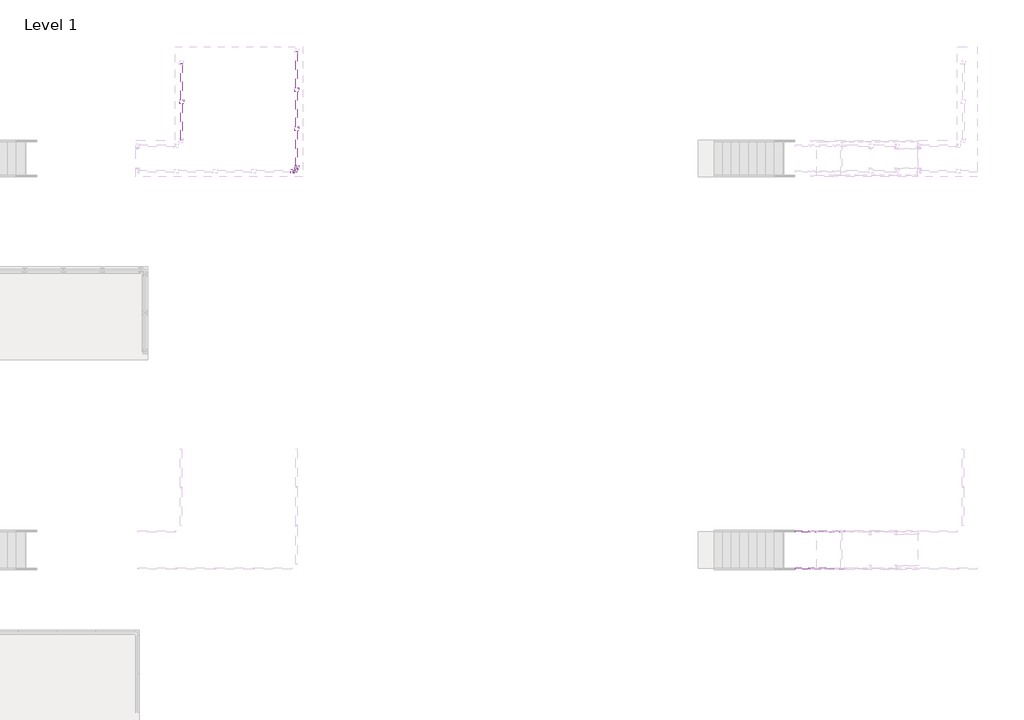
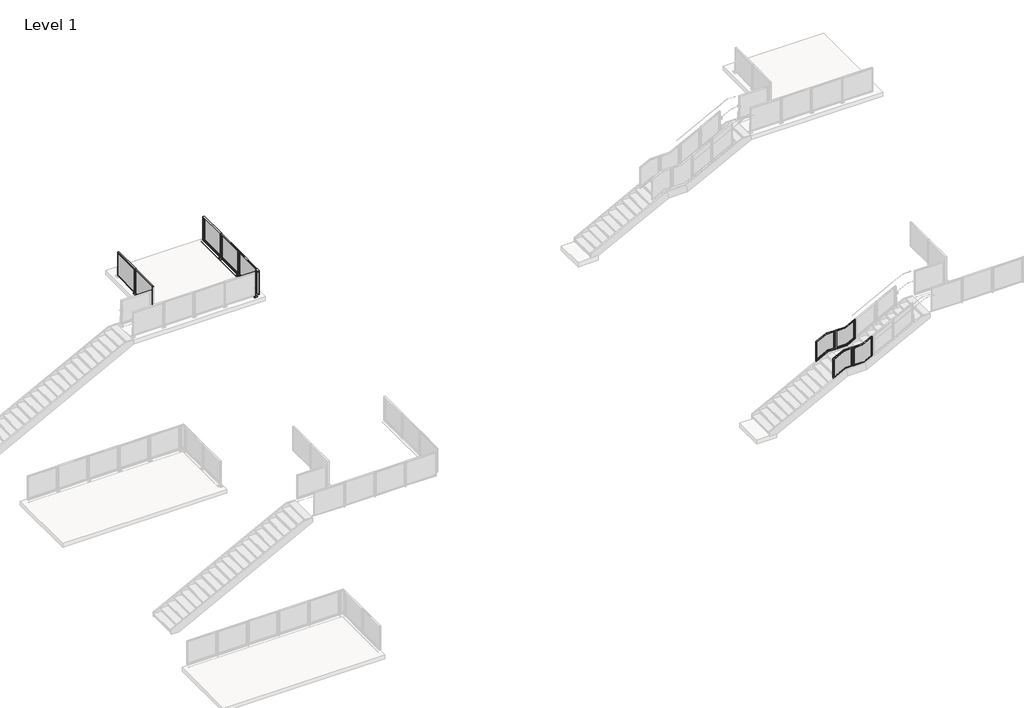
# One storey, part 9 of 37: 7 railings, 2 proxies.
"""IFC4 building model written with IfcOpenShell, lengths in millimetres."""

from ifc_helpers import new_model, si_unit, point, frame, frame_2d, origin, place, context, project, spatial, polyline, circle_curve, trimmed, segment, composite_curve, outline, extrude, faceted_brep, transform, mapped, element, save
from ifc_brep_helpers import plane_surface, cylinder_surface, advanced_brep
from components import baluster_end_post_viva_frame_top_mount_efd1a991, baluster_end_post_viva_frame_top_mount_259ace8d, baluster_corner_panel_viva_frame_inside_standard_3efb34d5, baluster_landing_panel_viva_frame_lower_standard_pp01_bb39d073, baluster_landing_panel_viva_frame_lower_standard_pp01_9d421a16, baluster_landing_panel_viva_frame_upper_standard_pp01_6e22e4d4, baluster_landing_panel_viva_frame_upper_standard_pp01_60e66afc

model = new_model("IFC4")

# Units and contexts
model_context = context("Model", 3, world=origin())
ifc_project = project(units=[si_unit("LENGTHUNIT", "METRE", prefix="MILLI")], contexts=[model_context])

# Site, building, storey
site = spatial("IfcSite", under=ifc_project)
building = spatial("IfcBuilding", under=site)
storey = spatial("IfcBuildingStorey", under=building, Name="Level 1", Elevation=0.0)

# Proxies
placement = place(None, origin())
baluster_end_post_viva_frame_top_mount_shape = baluster_end_post_viva_frame_top_mount_efd1a991(model_context)
element("IfcBuildingElementProxy", 1, Name="Baluster-End-Post-VIVA-FRAME-Top Mount : ANCHORED TO CONCRETE_TOP MOUNT FOLD_STRAIGHT", ObjectType="Baluster-End-Post-VIVA-FRAME-Top Mount : ANCHORED TO CONCRETE_TOP MOUNT FOLD_STRAIGHT", at=placement, inside=storey, context=model_context, shape_type="MappedRepresentation", body=[
    mapped(baluster_end_post_viva_frame_top_mount_shape, transform((-27936.8813244, -18323.6294547, 3047.492), x_axis=(1.0, 0.0, 0.0), y_axis=(0.0, 1.0, 0.0), z_axis=(0.0, 0.0, 1.0))),
])
baluster_end_post_viva_frame_top_mount_2_shape = baluster_end_post_viva_frame_top_mount_259ace8d(model_context)
element("IfcBuildingElementProxy", 2, Name="Baluster-End-Post-VIVA-FRAME-Top Mount : ANCHORED TO CONCRETE_TOP MOUNT FOLD_STRAIGHT", ObjectType="Baluster-End-Post-VIVA-FRAME-Top Mount : ANCHORED TO CONCRETE_TOP MOUNT FOLD_STRAIGHT", at=placement, inside=storey, context=model_context, shape_type="MappedRepresentation", body=[
    mapped(baluster_end_post_viva_frame_top_mount_2_shape, transform((-27904.0759339, -18290.5208207, 3047.492), x_axis=(0.0, 1.0, 0.0), y_axis=(-1.0, 0.0, 0.0), z_axis=(0.0, 0.0, 1.0))),
])

# Railings
baluster_corner_panel_viva_frame_inside_standard_shape = baluster_corner_panel_viva_frame_inside_standard_3efb34d5(model_context)
element("IfcRailing", 3, ObjectType="Baluster-Corner-Panel-VIVA-FRAME : Inside_Standard", at=placement, inside=storey, context=model_context, shape_type="MappedRepresentation", body=[
    mapped(baluster_corner_panel_viva_frame_inside_standard_shape, transform((-27784.2655339, -18444.3140278, 3022.346), x_axis=(0.0, 1.0, 0.0), y_axis=(-1.0, 0.0, 0.0), z_axis=(0.0, 0.0, 1.0))),
])
baluster_landing_panel_viva_frame_lower_standard_pp01_shape = baluster_landing_panel_viva_frame_lower_standard_pp01_bb39d073(model_context)
element("IfcRailing", 4, ObjectType="Baluster-Landing-Panel-VIVA-FRAME-Lower : Standard_PP01", at=placement, inside=storey, context=model_context, shape_type="MappedRepresentation", body=[
    mapped(baluster_landing_panel_viva_frame_lower_standard_pp01_shape, transform((-11484.6935302, -31470.0224284, 1733.4542898), x_axis=(0.0, 1.0, 0.0), y_axis=(-1.0, 0.0, 0.0), z_axis=(0.0, 0.0, 1.0))),
])
baluster_landing_panel_viva_frame_lower_standard_pp01_2_shape = baluster_landing_panel_viva_frame_lower_standard_pp01_9d421a16(model_context)
element("IfcRailing", 5, ObjectType="Baluster-Landing-Panel-VIVA-FRAME-Lower : Standard_PP01", at=placement, inside=storey, context=model_context, shape_type="MappedRepresentation", body=[
    mapped(baluster_landing_panel_viva_frame_lower_standard_pp01_2_shape, transform((-11484.6935302, -30170.4643608, 1733.4542898), x_axis=(0.0, -1.0, 0.0), y_axis=(1.0, 0.0, 0.0), z_axis=(0.0, 0.0, 1.0))),
])
baluster_landing_panel_viva_frame_upper_standard_pp01_shape = baluster_landing_panel_viva_frame_upper_standard_pp01_6e22e4d4(model_context)
element("IfcRailing", 6, ObjectType="Baluster-Landing-Panel-VIVA-FRAME-Upper : Standard_PP01", at=placement, inside=storey, context=model_context, shape_type="MappedRepresentation", body=[
    mapped(baluster_landing_panel_viva_frame_upper_standard_pp01_shape, transform((-10828.1937185, -31517.6393503, 1736.2385299), x_axis=(0.0, 1.0, 0.0), y_axis=(-1.0, 0.0, 0.0), z_axis=(0.0, 0.0, 1.0))),
])
baluster_landing_panel_viva_frame_upper_standard_pp01_2_shape = baluster_landing_panel_viva_frame_upper_standard_pp01_60e66afc(model_context)
element("IfcRailing", 7, ObjectType="Baluster-Landing-Panel-VIVA-FRAME-Upper : Standard_PP01", at=placement, inside=storey, context=model_context, shape_type="MappedRepresentation", body=[
    mapped(baluster_landing_panel_viva_frame_upper_standard_pp01_2_shape, transform((-10828.1937185, -30122.8474388, 1736.2385299), x_axis=(0.0, -1.0, 0.0), y_axis=(1.0, 0.0, 0.0), z_axis=(0.0, 0.0, 1.0))),
])
element("IfcRailing", 8, ObjectType="Metal-Panel-VIVA-FRAME-Slab-Top-Anchor-Straight", at=placement, inside=storey, context=model_context, shape_type="SolidModel", body=[
    extrude(outline(composite_curve([segment(trimmed(circle_curve(frame_2d((3047.746, -31481.1959244)), 0.254), [point((3047.746, -31480.9419244))], [point((3047.746, -31481.4499244))], False, "CARTESIAN"), True, "CONTINUOUS"), segment(trimmed(circle_curve(frame_2d((3047.746, -31481.1959244)), 0.254), [point((3047.746, -31481.4499244))], [point((3047.746, -31480.9419244))], False, "CARTESIAN"), True, "CONTINUOUS")], self_intersect=False)), frame((0.0, -17412.2829234, 0.0), z_axis=(0.0, 1.0, 0.0), x_axis=(0.0, 0.0, 1.0)), (0.0, 0.0, 1.0), 2540.0),
    extrude(outline(composite_curve([segment(trimmed(circle_curve(frame_2d((3047.746, -31481.1959244)), 0.254), [point((3047.746, -31480.9419244))], [point((3047.746, -31481.4499244))], False, "CARTESIAN"), True, "CONTINUOUS"), segment(trimmed(circle_curve(frame_2d((3047.746, -31481.1959244)), 0.254), [point((3047.746, -31481.4499244))], [point((3047.746, -31480.9419244))], False, "CARTESIAN"), True, "CONTINUOUS")], self_intersect=False)), frame((0.0, -17412.2829234, 0.0), z_axis=(0.0, 1.0, 0.0), x_axis=(0.0, 0.0, 1.0)), (0.0, 0.0, 1.0), 2540.0),
    extrude(outline(polyline([(-31604.0063244, -16101.4564664), (-31604.0063244, -14913.1093803), (-31601.0063244, -14913.1093803), (-31601.0063244, -16101.4564664), (-31604.0063244, -16101.4564664)])), frame((0.0, 0.0, 3124.1959569), z_axis=(0.0, 0.0, 1.0), x_axis=(1.0, 0.0, 0.0)), (0.0, 0.0, 1.0), 990.5826861),
    faceted_brep([(-31604.0063244, -16126.8564664, 4140.1786431), (-31604.0063244, -14887.7093803, 4140.1786431), (-31604.0063244, -14887.7093803, 3098.7959569), (-31604.0063244, -16126.8564664, 3098.7959569), (-31604.0063244, -16101.4564664, 4114.7786431), (-31604.0063244, -16101.4564664, 3124.1959569), (-31604.0063244, -14913.1093803, 3124.1959569), (-31604.0063244, -14913.1093803, 4114.7786431), (-31601.0063244, -16101.4564664, 3124.1959569), (-31601.0063244, -14913.1093803, 3124.1959569), (-31601.0063244, -14913.1093803, 4114.7786431), (-31601.0063244, -16101.4564664, 4114.7786431), (-31550.2063244, -16120.8620664, 3104.7903569), (-31550.2063244, -14893.7037803, 3104.7903569), (-31581.0165244, -14893.7037803, 3104.7903569), (-31581.0165244, -16120.8620664, 3104.7903569), (-31550.2063244, -14893.7037803, 4134.1842431), (-31581.0165244, -14893.7037803, 4134.1842431), (-31581.0165244, -16120.8620664, 4134.1842431), (-31550.2063244, -16120.8620664, 4134.1842431), (-31550.2063244, -14887.7093803, 3098.7959569), (-31550.2063244, -14887.7093803, 4140.1786431), (-31550.2063244, -16126.8564664, 4140.1786431), (-31550.2063244, -16126.8564664, 3098.7959569), (-31601.0063244, -16076.0564664, 4089.3786431), (-31601.0063244, -16076.0564664, 3149.5959569), (-31601.0063244, -14938.5093803, 3149.5959569), (-31601.0063244, -14938.5093803, 4089.3786431), (-31581.0165244, -14938.5093803, 3149.5959569), (-31581.0165244, -16076.0564664, 3149.5959569), (-31581.0165244, -16076.0564664, 4089.3786431), (-31581.0165244, -14938.5093803, 4089.3786431)], [[[0, 1, 2, 3], [4, 5, 6, 7]], [[5, 8, 9, 6]], [[6, 9, 10, 7]], [[7, 10, 11, 4]], [[4, 11, 8, 5]], [[12, 13, 14, 15]], [[13, 16, 17, 14]], [[15, 18, 19, 12]], [[20, 21, 22, 23], [12, 19, 16, 13]], [[23, 22, 0, 3]], [[23, 3, 2, 20]], [[2, 1, 21, 20]], [[22, 21, 1, 0]], [[11, 10, 9, 8], [24, 25, 26, 27]], [[14, 17, 18, 15], [28, 29, 30, 31]], [[18, 17, 16, 19]], [[27, 31, 30, 24]], [[26, 28, 31, 27]], [[25, 29, 28, 26]], [[24, 30, 29, 25]]]),
    advanced_brep(
    [(-31577.1063244, -16168.4703234, 3178.1496), (-31577.1063244, -16168.4703234, 3187.7), (-31577.1063244, -16168.4703234, 3197.2504), (-31577.1063244, -16163.6951234, 3178.1496), (-31577.1063244, -16163.6951234, 3197.2504), (-31577.1063244, -16163.6951234, 3182.9248), (-31577.1063244, -16163.6951234, 3192.4752), (-31577.1063244, -16120.8707234, 3182.9248), (-31577.1063244, -16120.8707234, 3192.4752), (-31577.1063244, -16120.8707234, 3178.1496), (-31577.1063244, -16120.8707234, 3197.2504), (-31577.1063244, -16116.0955234, 3178.1496), (-31577.1063244, -16116.0955234, 3197.2504), (-31577.1063244, -16116.0955234, 3187.7)],
    [
        (0, 1),
        (1, 2),
        (2, 0, circle_curve(frame((-31577.1063244, -16168.4703234, 3187.7), z_axis=(0.0, -1.0, 0.0), x_axis=(0.0, 0.0, 1.0)), 9.5504)),
        (0, 2, circle_curve(frame((-31577.1063244, -16168.4703234, 3187.7), z_axis=(0.0, -1.0, 0.0), x_axis=(0.0, 0.0, 1.0)), 9.5504)),
        (3, 0),
        (2, 4),
        (4, 3, circle_curve(frame((-31577.1063244, -16163.6951234, 3187.7), z_axis=(0.0, -1.0, 0.0), x_axis=(0.0, 0.0, 1.0)), 9.5504)),
        (3, 4, circle_curve(frame((-31577.1063244, -16163.6951234, 3187.7), z_axis=(0.0, -1.0, 0.0), x_axis=(0.0, 0.0, 1.0)), 9.5504)),
        (5, 3),
        (4, 6),
        (6, 5, circle_curve(frame((-31577.1063244, -16163.6951234, 3187.7), z_axis=(0.0, -1.0, 0.0), x_axis=(0.0, 0.0, 1.0)), 4.7752)),
        (5, 6, circle_curve(frame((-31577.1063244, -16163.6951234, 3187.7), z_axis=(0.0, -1.0, 0.0), x_axis=(0.0, 0.0, 1.0)), 4.7752)),
        (7, 5),
        (6, 8),
        (8, 7, circle_curve(frame((-31577.1063244, -16120.8707234, 3187.7), z_axis=(0.0, -1.0, 0.0), x_axis=(0.0, 0.0, 1.0)), 4.7752)),
        (7, 8, circle_curve(frame((-31577.1063244, -16120.8707234, 3187.7), z_axis=(0.0, -1.0, 0.0), x_axis=(0.0, 0.0, 1.0)), 4.7752)),
        (9, 7),
        (8, 10),
        (10, 9, circle_curve(frame((-31577.1063244, -16120.8707234, 3187.7), z_axis=(0.0, -1.0, 0.0), x_axis=(0.0, 0.0, 1.0)), 9.5504)),
        (9, 10, circle_curve(frame((-31577.1063244, -16120.8707234, 3187.7), z_axis=(0.0, -1.0, 0.0), x_axis=(0.0, 0.0, 1.0)), 9.5504)),
        (11, 9),
        (10, 12),
        (12, 11, circle_curve(frame((-31577.1063244, -16116.0955234, 3187.7), z_axis=(0.0, -1.0, 0.0), x_axis=(0.0, 0.0, 1.0)), 9.5504)),
        (11, 12, circle_curve(frame((-31577.1063244, -16116.0955234, 3187.7), z_axis=(0.0, -1.0, 0.0), x_axis=(0.0, 0.0, 1.0)), 9.5504)),
        (13, 11),
        (12, 13),
    ],
    [
        plane_surface(frame((-31577.1063244, -16168.4703234, 3187.7), z_axis=(0.0, -1.0, 0.0), x_axis=(0.0, 0.0, 1.0))),
        cylinder_surface(frame((-31577.1063244, -19560.0506805, 3187.7), z_axis=(0.0, 1.0, 0.0), x_axis=(0.0, 0.0, 1.0)), 9.5504),
        plane_surface(frame((-31577.1063244, -16163.6951234, 3187.7), z_axis=(0.0, 1.0, 0.0), x_axis=(0.0, 0.0, 1.0))),
        cylinder_surface(frame((-31577.1063244, -19560.0506805, 3187.7), z_axis=(0.0, 1.0, 0.0), x_axis=(0.0, 0.0, 1.0)), 4.7752),
        plane_surface(frame((-31577.1063244, -16120.8707234, 3187.7), z_axis=(0.0, -1.0, 0.0), x_axis=(0.0, 0.0, 1.0))),
        plane_surface(frame((-31577.1063244, -16116.0955234, 3187.7), z_axis=(0.0, 1.0, 0.0), x_axis=(0.0, 0.0, 1.0))),
    ],
    [
        (0, [[1, 2, 3]]),
        (0, [[-2, -1, 4]]),
        (1, [[5, -3, 6, 7]]),
        (1, [[-6, -4, -5, 8]]),
        (2, [[9, -7, 10, 11]]),
        (2, [[-10, -8, -9, 12]]),
        (3, [[13, -11, 14, 15]]),
        (3, [[-14, -12, -13, 16]]),
        (4, [[17, -15, 18, 19]]),
        (4, [[-18, -16, -17, 20]]),
        (1, [[21, -19, 22, 23]]),
        (1, [[-22, -20, -21, 24]]),
        (5, [[25, -23, 26]]),
        (5, [[-26, -24, -25]]),
    ],
),
    advanced_brep(
    [(-31577.1063244, -16168.4703234, 3419.4496), (-31577.1063244, -16168.4703234, 3429.0), (-31577.1063244, -16168.4703234, 3438.5504), (-31577.1063244, -16163.6951234, 3419.4496), (-31577.1063244, -16163.6951234, 3438.5504), (-31577.1063244, -16163.6951234, 3424.2248), (-31577.1063244, -16163.6951234, 3433.7752), (-31577.1063244, -16120.8707234, 3424.2248), (-31577.1063244, -16120.8707234, 3433.7752), (-31577.1063244, -16120.8707234, 3419.4496), (-31577.1063244, -16120.8707234, 3438.5504), (-31577.1063244, -16116.0955234, 3419.4496), (-31577.1063244, -16116.0955234, 3438.5504), (-31577.1063244, -16116.0955234, 3429.0)],
    [
        (0, 1),
        (1, 2),
        (2, 0, circle_curve(frame((-31577.1063244, -16168.4703234, 3429.0), z_axis=(0.0, -1.0, 0.0), x_axis=(0.0, 0.0, 1.0)), 9.5504)),
        (0, 2, circle_curve(frame((-31577.1063244, -16168.4703234, 3429.0), z_axis=(0.0, -1.0, 0.0), x_axis=(0.0, 0.0, 1.0)), 9.5504)),
        (3, 0),
        (2, 4),
        (4, 3, circle_curve(frame((-31577.1063244, -16163.6951234, 3429.0), z_axis=(0.0, -1.0, 0.0), x_axis=(0.0, 0.0, 1.0)), 9.5504)),
        (3, 4, circle_curve(frame((-31577.1063244, -16163.6951234, 3429.0), z_axis=(0.0, -1.0, 0.0), x_axis=(0.0, 0.0, 1.0)), 9.5504)),
        (5, 3),
        (4, 6),
        (6, 5, circle_curve(frame((-31577.1063244, -16163.6951234, 3429.0), z_axis=(0.0, -1.0, 0.0), x_axis=(0.0, 0.0, 1.0)), 4.7752)),
        (5, 6, circle_curve(frame((-31577.1063244, -16163.6951234, 3429.0), z_axis=(0.0, -1.0, 0.0), x_axis=(0.0, 0.0, 1.0)), 4.7752)),
        (7, 5),
        (6, 8),
        (8, 7, circle_curve(frame((-31577.1063244, -16120.8707234, 3429.0), z_axis=(0.0, -1.0, 0.0), x_axis=(0.0, 0.0, 1.0)), 4.7752)),
        (7, 8, circle_curve(frame((-31577.1063244, -16120.8707234, 3429.0), z_axis=(0.0, -1.0, 0.0), x_axis=(0.0, 0.0, 1.0)), 4.7752)),
        (9, 7),
        (8, 10),
        (10, 9, circle_curve(frame((-31577.1063244, -16120.8707234, 3429.0), z_axis=(0.0, -1.0, 0.0), x_axis=(0.0, 0.0, 1.0)), 9.5504)),
        (9, 10, circle_curve(frame((-31577.1063244, -16120.8707234, 3429.0), z_axis=(0.0, -1.0, 0.0), x_axis=(0.0, 0.0, 1.0)), 9.5504)),
        (11, 9),
        (10, 12),
        (12, 11, circle_curve(frame((-31577.1063244, -16116.0955234, 3429.0), z_axis=(0.0, -1.0, 0.0), x_axis=(0.0, 0.0, 1.0)), 9.5504)),
        (11, 12, circle_curve(frame((-31577.1063244, -16116.0955234, 3429.0), z_axis=(0.0, -1.0, 0.0), x_axis=(0.0, 0.0, 1.0)), 9.5504)),
        (13, 11),
        (12, 13),
    ],
    [
        plane_surface(frame((-31577.1063244, -16168.4703234, 3429.0), z_axis=(0.0, -1.0, 0.0), x_axis=(0.0, 0.0, 1.0))),
        cylinder_surface(frame((-31577.1063244, -19560.0506805, 3429.0), z_axis=(0.0, 1.0, 0.0), x_axis=(0.0, 0.0, 1.0)), 9.5504),
        plane_surface(frame((-31577.1063244, -16163.6951234, 3429.0), z_axis=(0.0, 1.0, 0.0), x_axis=(0.0, 0.0, 1.0))),
        cylinder_surface(frame((-31577.1063244, -19560.0506805, 3429.0), z_axis=(0.0, 1.0, 0.0), x_axis=(0.0, 0.0, 1.0)), 4.7752),
        plane_surface(frame((-31577.1063244, -16120.8707234, 3429.0), z_axis=(0.0, -1.0, 0.0), x_axis=(0.0, 0.0, 1.0))),
        plane_surface(frame((-31577.1063244, -16116.0955234, 3429.0), z_axis=(0.0, 1.0, 0.0), x_axis=(0.0, 0.0, 1.0))),
    ],
    [
        (0, [[1, 2, 3]]),
        (0, [[-2, -1, 4]]),
        (1, [[5, -3, 6, 7]]),
        (1, [[-6, -4, -5, 8]]),
        (2, [[9, -7, 10, 11]]),
        (2, [[-10, -8, -9, 12]]),
        (3, [[13, -11, 14, 15]]),
        (3, [[-14, -12, -13, 16]]),
        (4, [[17, -15, 18, 19]]),
        (4, [[-18, -16, -17, 20]]),
        (1, [[21, -19, 22, 23]]),
        (1, [[-22, -20, -21, 24]]),
        (5, [[25, -23, 26]]),
        (5, [[-26, -24, -25]]),
    ],
),
    extrude(outline(polyline([(-31511.2187244, -16208.1705234), (-31642.9939244, -16208.1705234), (-31642.9939244, -16076.3953234), (-31511.2187244, -16076.3953234), (-31511.2187244, -16208.1705234)])), frame((0.0, 0.0, 3048.0), z_axis=(0.0, 0.0, 1.0), x_axis=(1.0, 0.0, 0.0)), (0.0, 0.0, 1.0), 25.4),
    extrude(outline(polyline([(-31554.8813244, -16150.222515), (-31599.3313244, -16150.222515), (-31599.3313244, -16134.3433317), (-31554.8813244, -16134.3433317), (-31554.8813244, -16150.222515)])), frame((0.0, 0.0, 3048.0), z_axis=(0.0, 0.0, 1.0), x_axis=(1.0, 0.0, 0.0)), (0.0, 0.0, 1.0), 406.4),
    extrude(outline(polyline([(-31604.0063244, -17371.4564664), (-31604.0063244, -16183.1093803), (-31601.0063244, -16183.1093803), (-31601.0063244, -17371.4564664), (-31604.0063244, -17371.4564664)])), frame((0.0, 0.0, 3124.1959569), z_axis=(0.0, 0.0, 1.0), x_axis=(1.0, 0.0, 0.0)), (0.0, 0.0, 1.0), 990.5826861),
    faceted_brep([(-31604.0063244, -17396.8564664, 4140.1786431), (-31604.0063244, -16157.7093803, 4140.1786431), (-31604.0063244, -16157.7093803, 3098.7959569), (-31604.0063244, -17396.8564664, 3098.7959569), (-31604.0063244, -17371.4564664, 4114.7786431), (-31604.0063244, -17371.4564664, 3124.1959569), (-31604.0063244, -16183.1093803, 3124.1959569), (-31604.0063244, -16183.1093803, 4114.7786431), (-31601.0063244, -17371.4564664, 3124.1959569), (-31601.0063244, -16183.1093803, 3124.1959569), (-31601.0063244, -16183.1093803, 4114.7786431), (-31601.0063244, -17371.4564664, 4114.7786431), (-31550.2063244, -17390.8620664, 3104.7903569), (-31550.2063244, -16163.7037803, 3104.7903569), (-31581.0165244, -16163.7037803, 3104.7903569), (-31581.0165244, -17390.8620664, 3104.7903569), (-31550.2063244, -16163.7037803, 4134.1842431), (-31581.0165244, -16163.7037803, 4134.1842431), (-31581.0165244, -17390.8620664, 4134.1842431), (-31550.2063244, -17390.8620664, 4134.1842431), (-31550.2063244, -16157.7093803, 3098.7959569), (-31550.2063244, -16157.7093803, 4140.1786431), (-31550.2063244, -17396.8564664, 4140.1786431), (-31550.2063244, -17396.8564664, 3098.7959569), (-31601.0063244, -17346.0564664, 4089.3786431), (-31601.0063244, -17346.0564664, 3149.5959569), (-31601.0063244, -16208.5093803, 3149.5959569), (-31601.0063244, -16208.5093803, 4089.3786431), (-31581.0165244, -16208.5093803, 3149.5959569), (-31581.0165244, -17346.0564664, 3149.5959569), (-31581.0165244, -17346.0564664, 4089.3786431), (-31581.0165244, -16208.5093803, 4089.3786431)], [[[0, 1, 2, 3], [4, 5, 6, 7]], [[5, 8, 9, 6]], [[6, 9, 10, 7]], [[7, 10, 11, 4]], [[4, 11, 8, 5]], [[12, 13, 14, 15]], [[13, 16, 17, 14]], [[15, 18, 19, 12]], [[20, 21, 22, 23], [12, 19, 16, 13]], [[23, 22, 0, 3]], [[23, 3, 2, 20]], [[2, 1, 21, 20]], [[22, 21, 1, 0]], [[11, 10, 9, 8], [24, 25, 26, 27]], [[14, 17, 18, 15], [28, 29, 30, 31]], [[18, 17, 16, 19]], [[27, 31, 30, 24]], [[26, 28, 31, 27]], [[25, 29, 28, 26]], [[24, 30, 29, 25]]]),
])
element("IfcRailing", 9, ObjectType="Metal-Panel-VIVA-FRAME-Slab-Top-Anchor-Straight", at=placement, inside=storey, context=model_context, shape_type="SolidModel", body=[
    extrude(outline(composite_curve([segment(trimmed(circle_curve(frame_2d((3047.746, -27904.0759339)), 0.254), [point((3047.746, -27903.8219339))], [point((3047.746, -27904.3299339))], False, "CARTESIAN"), True, "CONTINUOUS"), segment(trimmed(circle_curve(frame_2d((3047.746, -27904.0759339)), 0.254), [point((3047.746, -27904.3299339))], [point((3047.746, -27903.8219339))], False, "CARTESIAN"), True, "CONTINUOUS")], self_intersect=False)), frame((0.0, -18290.5208207, 0.0), z_axis=(0.0, 1.0, 0.0), x_axis=(0.0, 0.0, 1.0)), (0.0, 0.0, 1.0), 3810.0),
    extrude(outline(composite_curve([segment(trimmed(circle_curve(frame_2d((3047.746, -27904.0759339)), 0.254), [point((3047.746, -27903.8219339))], [point((3047.746, -27904.3299339))], False, "CARTESIAN"), True, "CONTINUOUS"), segment(trimmed(circle_curve(frame_2d((3047.746, -27904.0759339)), 0.254), [point((3047.746, -27904.3299339))], [point((3047.746, -27903.8219339))], False, "CARTESIAN"), True, "CONTINUOUS")], self_intersect=False)), frame((0.0, -18290.5208207, 0.0), z_axis=(0.0, 1.0, 0.0), x_axis=(0.0, 0.0, 1.0)), (0.0, 0.0, 1.0), 3810.0),
    extrude(outline(polyline([(-27781.2655339, -15709.6943638), (-27784.2655339, -15709.6943638), (-27784.2655339, -14521.3472777), (-27781.2655339, -14521.3472777), (-27781.2655339, -15709.6943638)])), frame((0.0, 0.0, 3124.1959569), z_axis=(0.0, 0.0, 1.0), x_axis=(1.0, 0.0, 0.0)), (0.0, 0.0, 1.0), 990.5826861),
    faceted_brep([(-27781.2655339, -15735.0943638, 4140.1786431), (-27781.2655339, -15735.0943638, 3098.7959569), (-27781.2655339, -14495.9472777, 3098.7959569), (-27781.2655339, -14495.9472777, 4140.1786431), (-27781.2655339, -15709.6943638, 4114.7786431), (-27781.2655339, -14521.3472777, 4114.7786431), (-27781.2655339, -14521.3472777, 3124.1959569), (-27781.2655339, -15709.6943638, 3124.1959569), (-27784.2655339, -14521.3472777, 3124.1959569), (-27784.2655339, -15709.6943638, 3124.1959569), (-27784.2655339, -14521.3472777, 4114.7786431), (-27784.2655339, -15709.6943638, 4114.7786431), (-27835.0655339, -15729.0999638, 3104.7903569), (-27804.2553339, -15729.0999638, 3104.7903569), (-27804.2553339, -14501.9416777, 3104.7903569), (-27835.0655339, -14501.9416777, 3104.7903569), (-27804.2553339, -14501.9416777, 4134.1842431), (-27835.0655339, -14501.9416777, 4134.1842431), (-27835.0655339, -15729.0999638, 4134.1842431), (-27804.2553339, -15729.0999638, 4134.1842431), (-27835.0655339, -14495.9472777, 3098.7959569), (-27835.0655339, -15735.0943638, 3098.7959569), (-27835.0655339, -15735.0943638, 4140.1786431), (-27835.0655339, -14495.9472777, 4140.1786431), (-27784.2655339, -15684.2943638, 4089.3786431), (-27784.2655339, -14546.7472777, 4089.3786431), (-27784.2655339, -14546.7472777, 3149.5959569), (-27784.2655339, -15684.2943638, 3149.5959569), (-27804.2553339, -14546.7472777, 3149.5959569), (-27804.2553339, -14546.7472777, 4089.3786431), (-27804.2553339, -15684.2943638, 4089.3786431), (-27804.2553339, -15684.2943638, 3149.5959569)], [[[0, 1, 2, 3], [4, 5, 6, 7]], [[7, 6, 8, 9]], [[6, 5, 10, 8]], [[5, 4, 11, 10]], [[4, 7, 9, 11]], [[12, 13, 14, 15]], [[15, 14, 16, 17]], [[13, 12, 18, 19]], [[20, 21, 22, 23], [12, 15, 17, 18]], [[21, 1, 0, 22]], [[21, 20, 2, 1]], [[2, 20, 23, 3]], [[22, 0, 3, 23]], [[11, 9, 8, 10], [24, 25, 26, 27]], [[14, 13, 19, 16], [28, 29, 30, 31]], [[19, 18, 17, 16]], [[25, 24, 30, 29]], [[26, 25, 29, 28]], [[27, 26, 28, 31]], [[24, 27, 31, 30]]]),
    advanced_brep(
    [(-27808.1655339, -15776.7082207, 3178.1496), (-27808.1655339, -15776.7082207, 3197.2504), (-27808.1655339, -15776.7082207, 3187.7), (-27808.1655339, -15771.9330207, 3178.1496), (-27808.1655339, -15771.9330207, 3197.2504), (-27808.1655339, -15771.9330207, 3182.9248), (-27808.1655339, -15771.9330207, 3192.4752), (-27808.1655339, -15729.1086207, 3182.9248), (-27808.1655339, -15729.1086207, 3192.4752), (-27808.1655339, -15729.1086207, 3178.1496), (-27808.1655339, -15729.1086207, 3197.2504), (-27808.1655339, -15724.3334207, 3178.1496), (-27808.1655339, -15724.3334207, 3197.2504), (-27808.1655339, -15724.3334207, 3187.7)],
    [
        (0, 1, circle_curve(frame((-27808.1655339, -15776.7082207, 3187.7), z_axis=(0.0, -1.0, 0.0), x_axis=(0.0, 0.0, 1.0)), 9.5504)),
        (1, 2),
        (2, 0),
        (1, 0, circle_curve(frame((-27808.1655339, -15776.7082207, 3187.7), z_axis=(0.0, -1.0, 0.0), x_axis=(0.0, 0.0, 1.0)), 9.5504)),
        (3, 4, circle_curve(frame((-27808.1655339, -15771.9330207, 3187.7), z_axis=(0.0, -1.0, 0.0), x_axis=(0.0, 0.0, 1.0)), 9.5504)),
        (4, 1),
        (0, 3),
        (4, 3, circle_curve(frame((-27808.1655339, -15771.9330207, 3187.7), z_axis=(0.0, -1.0, 0.0), x_axis=(0.0, 0.0, 1.0)), 9.5504)),
        (5, 6, circle_curve(frame((-27808.1655339, -15771.9330207, 3187.7), z_axis=(0.0, -1.0, 0.0), x_axis=(0.0, 0.0, 1.0)), 4.7752)),
        (6, 4),
        (3, 5),
        (6, 5, circle_curve(frame((-27808.1655339, -15771.9330207, 3187.7), z_axis=(0.0, -1.0, 0.0), x_axis=(0.0, 0.0, 1.0)), 4.7752)),
        (7, 8, circle_curve(frame((-27808.1655339, -15729.1086207, 3187.7), z_axis=(0.0, -1.0, 0.0), x_axis=(0.0, 0.0, 1.0)), 4.7752)),
        (8, 6),
        (5, 7),
        (8, 7, circle_curve(frame((-27808.1655339, -15729.1086207, 3187.7), z_axis=(0.0, -1.0, 0.0), x_axis=(0.0, 0.0, 1.0)), 4.7752)),
        (9, 10, circle_curve(frame((-27808.1655339, -15729.1086207, 3187.7), z_axis=(0.0, -1.0, 0.0), x_axis=(0.0, 0.0, 1.0)), 9.5504)),
        (10, 8),
        (7, 9),
        (10, 9, circle_curve(frame((-27808.1655339, -15729.1086207, 3187.7), z_axis=(0.0, -1.0, 0.0), x_axis=(0.0, 0.0, 1.0)), 9.5504)),
        (11, 12, circle_curve(frame((-27808.1655339, -15724.3334207, 3187.7), z_axis=(0.0, -1.0, 0.0), x_axis=(0.0, 0.0, 1.0)), 9.5504)),
        (12, 10),
        (9, 11),
        (12, 11, circle_curve(frame((-27808.1655339, -15724.3334207, 3187.7), z_axis=(0.0, -1.0, 0.0), x_axis=(0.0, 0.0, 1.0)), 9.5504)),
        (13, 12),
        (11, 13),
    ],
    [
        plane_surface(frame((-27808.1655339, -15776.7082207, 3187.7), z_axis=(0.0, -1.0, 0.0), x_axis=(0.0, 0.0, 1.0))),
        cylinder_surface(frame((-27808.1655339, -19168.2885779, 3187.7), z_axis=(0.0, 1.0, 0.0), x_axis=(0.0, 0.0, 1.0)), 9.5504),
        plane_surface(frame((-27808.1655339, -15771.9330207, 3187.7), z_axis=(0.0, 1.0, 0.0), x_axis=(0.0, 0.0, 1.0))),
        cylinder_surface(frame((-27808.1655339, -19168.2885779, 3187.7), z_axis=(0.0, 1.0, 0.0), x_axis=(0.0, 0.0, 1.0)), 4.7752),
        plane_surface(frame((-27808.1655339, -15729.1086207, 3187.7), z_axis=(0.0, -1.0, 0.0), x_axis=(0.0, 0.0, 1.0))),
        plane_surface(frame((-27808.1655339, -15724.3334207, 3187.7), z_axis=(0.0, 1.0, 0.0), x_axis=(0.0, 0.0, 1.0))),
    ],
    [
        (0, [[1, 2, 3]]),
        (0, [[4, -3, -2]]),
        (1, [[5, 6, -1, 7]]),
        (1, [[8, -7, -4, -6]]),
        (2, [[9, 10, -5, 11]]),
        (2, [[12, -11, -8, -10]]),
        (3, [[13, 14, -9, 15]]),
        (3, [[16, -15, -12, -14]]),
        (4, [[17, 18, -13, 19]]),
        (4, [[20, -19, -16, -18]]),
        (1, [[21, 22, -17, 23]]),
        (1, [[24, -23, -20, -22]]),
        (5, [[25, -21, 26]]),
        (5, [[-26, -24, -25]]),
    ],
),
    advanced_brep(
    [(-27808.1655339, -15776.7082207, 3419.4496), (-27808.1655339, -15776.7082207, 3438.5504), (-27808.1655339, -15776.7082207, 3429.0), (-27808.1655339, -15771.9330207, 3419.4496), (-27808.1655339, -15771.9330207, 3438.5504), (-27808.1655339, -15771.9330207, 3424.2248), (-27808.1655339, -15771.9330207, 3433.7752), (-27808.1655339, -15729.1086207, 3424.2248), (-27808.1655339, -15729.1086207, 3433.7752), (-27808.1655339, -15729.1086207, 3419.4496), (-27808.1655339, -15729.1086207, 3438.5504), (-27808.1655339, -15724.3334207, 3419.4496), (-27808.1655339, -15724.3334207, 3438.5504), (-27808.1655339, -15724.3334207, 3429.0)],
    [
        (0, 1, circle_curve(frame((-27808.1655339, -15776.7082207, 3429.0), z_axis=(0.0, -1.0, 0.0), x_axis=(0.0, 0.0, 1.0)), 9.5504)),
        (1, 2),
        (2, 0),
        (1, 0, circle_curve(frame((-27808.1655339, -15776.7082207, 3429.0), z_axis=(0.0, -1.0, 0.0), x_axis=(0.0, 0.0, 1.0)), 9.5504)),
        (3, 4, circle_curve(frame((-27808.1655339, -15771.9330207, 3429.0), z_axis=(0.0, -1.0, 0.0), x_axis=(0.0, 0.0, 1.0)), 9.5504)),
        (4, 1),
        (0, 3),
        (4, 3, circle_curve(frame((-27808.1655339, -15771.9330207, 3429.0), z_axis=(0.0, -1.0, 0.0), x_axis=(0.0, 0.0, 1.0)), 9.5504)),
        (5, 6, circle_curve(frame((-27808.1655339, -15771.9330207, 3429.0), z_axis=(0.0, -1.0, 0.0), x_axis=(0.0, 0.0, 1.0)), 4.7752)),
        (6, 4),
        (3, 5),
        (6, 5, circle_curve(frame((-27808.1655339, -15771.9330207, 3429.0), z_axis=(0.0, -1.0, 0.0), x_axis=(0.0, 0.0, 1.0)), 4.7752)),
        (7, 8, circle_curve(frame((-27808.1655339, -15729.1086207, 3429.0), z_axis=(0.0, -1.0, 0.0), x_axis=(0.0, 0.0, 1.0)), 4.7752)),
        (8, 6),
        (5, 7),
        (8, 7, circle_curve(frame((-27808.1655339, -15729.1086207, 3429.0), z_axis=(0.0, -1.0, 0.0), x_axis=(0.0, 0.0, 1.0)), 4.7752)),
        (9, 10, circle_curve(frame((-27808.1655339, -15729.1086207, 3429.0), z_axis=(0.0, -1.0, 0.0), x_axis=(0.0, 0.0, 1.0)), 9.5504)),
        (10, 8),
        (7, 9),
        (10, 9, circle_curve(frame((-27808.1655339, -15729.1086207, 3429.0), z_axis=(0.0, -1.0, 0.0), x_axis=(0.0, 0.0, 1.0)), 9.5504)),
        (11, 12, circle_curve(frame((-27808.1655339, -15724.3334207, 3429.0), z_axis=(0.0, -1.0, 0.0), x_axis=(0.0, 0.0, 1.0)), 9.5504)),
        (12, 10),
        (9, 11),
        (12, 11, circle_curve(frame((-27808.1655339, -15724.3334207, 3429.0), z_axis=(0.0, -1.0, 0.0), x_axis=(0.0, 0.0, 1.0)), 9.5504)),
        (13, 12),
        (11, 13),
    ],
    [
        plane_surface(frame((-27808.1655339, -15776.7082207, 3429.0), z_axis=(0.0, -1.0, 0.0), x_axis=(0.0, 0.0, 1.0))),
        cylinder_surface(frame((-27808.1655339, -19168.2885779, 3429.0), z_axis=(0.0, 1.0, 0.0), x_axis=(0.0, 0.0, 1.0)), 9.5504),
        plane_surface(frame((-27808.1655339, -15771.9330207, 3429.0), z_axis=(0.0, 1.0, 0.0), x_axis=(0.0, 0.0, 1.0))),
        cylinder_surface(frame((-27808.1655339, -19168.2885779, 3429.0), z_axis=(0.0, 1.0, 0.0), x_axis=(0.0, 0.0, 1.0)), 4.7752),
        plane_surface(frame((-27808.1655339, -15729.1086207, 3429.0), z_axis=(0.0, -1.0, 0.0), x_axis=(0.0, 0.0, 1.0))),
        plane_surface(frame((-27808.1655339, -15724.3334207, 3429.0), z_axis=(0.0, 1.0, 0.0), x_axis=(0.0, 0.0, 1.0))),
    ],
    [
        (0, [[1, 2, 3]]),
        (0, [[4, -3, -2]]),
        (1, [[5, 6, -1, 7]]),
        (1, [[8, -7, -4, -6]]),
        (2, [[9, 10, -5, 11]]),
        (2, [[12, -11, -8, -10]]),
        (3, [[13, 14, -9, 15]]),
        (3, [[16, -15, -12, -14]]),
        (4, [[17, 18, -13, 19]]),
        (4, [[20, -19, -16, -18]]),
        (1, [[21, 22, -17, 23]]),
        (1, [[24, -23, -20, -22]]),
        (5, [[25, -21, 26]]),
        (5, [[-26, -24, -25]]),
    ],
),
    extrude(outline(polyline([(-27874.0531339, -15816.4084207), (-27874.0531339, -15684.6332207), (-27742.2779339, -15684.6332207), (-27742.2779339, -15816.4084207), (-27874.0531339, -15816.4084207)])), frame((0.0, 0.0, 3048.0), z_axis=(0.0, 0.0, 1.0), x_axis=(1.0, 0.0, 0.0)), (0.0, 0.0, 1.0), 25.4),
    extrude(outline(polyline([(-27830.3905339, -15758.4604124), (-27830.3905339, -15742.5812291), (-27785.9405339, -15742.5812291), (-27785.9405339, -15758.4604124), (-27830.3905339, -15758.4604124)])), frame((0.0, 0.0, 3048.0), z_axis=(0.0, 0.0, 1.0), x_axis=(1.0, 0.0, 0.0)), (0.0, 0.0, 1.0), 406.4),
    extrude(outline(polyline([(-27781.2655339, -16979.6943638), (-27784.2655339, -16979.6943638), (-27784.2655339, -15791.3472777), (-27781.2655339, -15791.3472777), (-27781.2655339, -16979.6943638)])), frame((0.0, 0.0, 3124.1959569), z_axis=(0.0, 0.0, 1.0), x_axis=(1.0, 0.0, 0.0)), (0.0, 0.0, 1.0), 990.5826861),
    faceted_brep([(-27781.2655339, -17005.0943638, 4140.1786431), (-27781.2655339, -17005.0943638, 3098.7959569), (-27781.2655339, -15765.9472777, 3098.7959569), (-27781.2655339, -15765.9472777, 4140.1786431), (-27781.2655339, -16979.6943638, 4114.7786431), (-27781.2655339, -15791.3472777, 4114.7786431), (-27781.2655339, -15791.3472777, 3124.1959569), (-27781.2655339, -16979.6943638, 3124.1959569), (-27784.2655339, -15791.3472777, 3124.1959569), (-27784.2655339, -16979.6943638, 3124.1959569), (-27784.2655339, -15791.3472777, 4114.7786431), (-27784.2655339, -16979.6943638, 4114.7786431), (-27835.0655339, -16999.0999638, 3104.7903569), (-27804.2553339, -16999.0999638, 3104.7903569), (-27804.2553339, -15771.9416777, 3104.7903569), (-27835.0655339, -15771.9416777, 3104.7903569), (-27804.2553339, -15771.9416777, 4134.1842431), (-27835.0655339, -15771.9416777, 4134.1842431), (-27835.0655339, -16999.0999638, 4134.1842431), (-27804.2553339, -16999.0999638, 4134.1842431), (-27835.0655339, -15765.9472777, 3098.7959569), (-27835.0655339, -17005.0943638, 3098.7959569), (-27835.0655339, -17005.0943638, 4140.1786431), (-27835.0655339, -15765.9472777, 4140.1786431), (-27784.2655339, -16954.2943638, 4089.3786431), (-27784.2655339, -15816.7472777, 4089.3786431), (-27784.2655339, -15816.7472777, 3149.5959569), (-27784.2655339, -16954.2943638, 3149.5959569), (-27804.2553339, -15816.7472777, 3149.5959569), (-27804.2553339, -15816.7472777, 4089.3786431), (-27804.2553339, -16954.2943638, 4089.3786431), (-27804.2553339, -16954.2943638, 3149.5959569)], [[[0, 1, 2, 3], [4, 5, 6, 7]], [[7, 6, 8, 9]], [[6, 5, 10, 8]], [[5, 4, 11, 10]], [[4, 7, 9, 11]], [[12, 13, 14, 15]], [[15, 14, 16, 17]], [[13, 12, 18, 19]], [[20, 21, 22, 23], [12, 15, 17, 18]], [[21, 1, 0, 22]], [[21, 20, 2, 1]], [[2, 20, 23, 3]], [[22, 0, 3, 23]], [[11, 9, 8, 10], [24, 25, 26, 27]], [[14, 13, 19, 16], [28, 29, 30, 31]], [[19, 18, 17, 16]], [[25, 24, 30, 29]], [[26, 25, 29, 28]], [[27, 26, 28, 31]], [[24, 27, 31, 30]]]),
    advanced_brep(
    [(-27808.1655339, -17046.7082207, 3178.1496), (-27808.1655339, -17046.7082207, 3197.2504), (-27808.1655339, -17046.7082207, 3187.7), (-27808.1655339, -17041.9330207, 3178.1496), (-27808.1655339, -17041.9330207, 3197.2504), (-27808.1655339, -17041.9330207, 3182.9248), (-27808.1655339, -17041.9330207, 3192.4752), (-27808.1655339, -16999.1086207, 3182.9248), (-27808.1655339, -16999.1086207, 3192.4752), (-27808.1655339, -16999.1086207, 3178.1496), (-27808.1655339, -16999.1086207, 3197.2504), (-27808.1655339, -16994.3334207, 3178.1496), (-27808.1655339, -16994.3334207, 3197.2504), (-27808.1655339, -16994.3334207, 3187.7)],
    [
        (0, 1, circle_curve(frame((-27808.1655339, -17046.7082207, 3187.7), z_axis=(0.0, -1.0, 0.0), x_axis=(0.0, 0.0, 1.0)), 9.5504)),
        (1, 2),
        (2, 0),
        (1, 0, circle_curve(frame((-27808.1655339, -17046.7082207, 3187.7), z_axis=(0.0, -1.0, 0.0), x_axis=(0.0, 0.0, 1.0)), 9.5504)),
        (3, 4, circle_curve(frame((-27808.1655339, -17041.9330207, 3187.7), z_axis=(0.0, -1.0, 0.0), x_axis=(0.0, 0.0, 1.0)), 9.5504)),
        (4, 1),
        (0, 3),
        (4, 3, circle_curve(frame((-27808.1655339, -17041.9330207, 3187.7), z_axis=(0.0, -1.0, 0.0), x_axis=(0.0, 0.0, 1.0)), 9.5504)),
        (5, 6, circle_curve(frame((-27808.1655339, -17041.9330207, 3187.7), z_axis=(0.0, -1.0, 0.0), x_axis=(0.0, 0.0, 1.0)), 4.7752)),
        (6, 4),
        (3, 5),
        (6, 5, circle_curve(frame((-27808.1655339, -17041.9330207, 3187.7), z_axis=(0.0, -1.0, 0.0), x_axis=(0.0, 0.0, 1.0)), 4.7752)),
        (7, 8, circle_curve(frame((-27808.1655339, -16999.1086207, 3187.7), z_axis=(0.0, -1.0, 0.0), x_axis=(0.0, 0.0, 1.0)), 4.7752)),
        (8, 6),
        (5, 7),
        (8, 7, circle_curve(frame((-27808.1655339, -16999.1086207, 3187.7), z_axis=(0.0, -1.0, 0.0), x_axis=(0.0, 0.0, 1.0)), 4.7752)),
        (9, 10, circle_curve(frame((-27808.1655339, -16999.1086207, 3187.7), z_axis=(0.0, -1.0, 0.0), x_axis=(0.0, 0.0, 1.0)), 9.5504)),
        (10, 8),
        (7, 9),
        (10, 9, circle_curve(frame((-27808.1655339, -16999.1086207, 3187.7), z_axis=(0.0, -1.0, 0.0), x_axis=(0.0, 0.0, 1.0)), 9.5504)),
        (11, 12, circle_curve(frame((-27808.1655339, -16994.3334207, 3187.7), z_axis=(0.0, -1.0, 0.0), x_axis=(0.0, 0.0, 1.0)), 9.5504)),
        (12, 10),
        (9, 11),
        (12, 11, circle_curve(frame((-27808.1655339, -16994.3334207, 3187.7), z_axis=(0.0, -1.0, 0.0), x_axis=(0.0, 0.0, 1.0)), 9.5504)),
        (13, 12),
        (11, 13),
    ],
    [
        plane_surface(frame((-27808.1655339, -17046.7082207, 3187.7), z_axis=(0.0, -1.0, 0.0), x_axis=(0.0, 0.0, 1.0))),
        cylinder_surface(frame((-27808.1655339, -20438.2885779, 3187.7), z_axis=(0.0, 1.0, 0.0), x_axis=(0.0, 0.0, 1.0)), 9.5504),
        plane_surface(frame((-27808.1655339, -17041.9330207, 3187.7), z_axis=(0.0, 1.0, 0.0), x_axis=(0.0, 0.0, 1.0))),
        cylinder_surface(frame((-27808.1655339, -20438.2885779, 3187.7), z_axis=(0.0, 1.0, 0.0), x_axis=(0.0, 0.0, 1.0)), 4.7752),
        plane_surface(frame((-27808.1655339, -16999.1086207, 3187.7), z_axis=(0.0, -1.0, 0.0), x_axis=(0.0, 0.0, 1.0))),
        plane_surface(frame((-27808.1655339, -16994.3334207, 3187.7), z_axis=(0.0, 1.0, 0.0), x_axis=(0.0, 0.0, 1.0))),
    ],
    [
        (0, [[1, 2, 3]]),
        (0, [[4, -3, -2]]),
        (1, [[5, 6, -1, 7]]),
        (1, [[8, -7, -4, -6]]),
        (2, [[9, 10, -5, 11]]),
        (2, [[12, -11, -8, -10]]),
        (3, [[13, 14, -9, 15]]),
        (3, [[16, -15, -12, -14]]),
        (4, [[17, 18, -13, 19]]),
        (4, [[20, -19, -16, -18]]),
        (1, [[21, 22, -17, 23]]),
        (1, [[24, -23, -20, -22]]),
        (5, [[25, -21, 26]]),
        (5, [[-26, -24, -25]]),
    ],
),
    advanced_brep(
    [(-27808.1655339, -17046.7082207, 3419.4496), (-27808.1655339, -17046.7082207, 3438.5504), (-27808.1655339, -17046.7082207, 3429.0), (-27808.1655339, -17041.9330207, 3419.4496), (-27808.1655339, -17041.9330207, 3438.5504), (-27808.1655339, -17041.9330207, 3424.2248), (-27808.1655339, -17041.9330207, 3433.7752), (-27808.1655339, -16999.1086207, 3424.2248), (-27808.1655339, -16999.1086207, 3433.7752), (-27808.1655339, -16999.1086207, 3419.4496), (-27808.1655339, -16999.1086207, 3438.5504), (-27808.1655339, -16994.3334207, 3419.4496), (-27808.1655339, -16994.3334207, 3438.5504), (-27808.1655339, -16994.3334207, 3429.0)],
    [
        (0, 1, circle_curve(frame((-27808.1655339, -17046.7082207, 3429.0), z_axis=(0.0, -1.0, 0.0), x_axis=(0.0, 0.0, 1.0)), 9.5504)),
        (1, 2),
        (2, 0),
        (1, 0, circle_curve(frame((-27808.1655339, -17046.7082207, 3429.0), z_axis=(0.0, -1.0, 0.0), x_axis=(0.0, 0.0, 1.0)), 9.5504)),
        (3, 4, circle_curve(frame((-27808.1655339, -17041.9330207, 3429.0), z_axis=(0.0, -1.0, 0.0), x_axis=(0.0, 0.0, 1.0)), 9.5504)),
        (4, 1),
        (0, 3),
        (4, 3, circle_curve(frame((-27808.1655339, -17041.9330207, 3429.0), z_axis=(0.0, -1.0, 0.0), x_axis=(0.0, 0.0, 1.0)), 9.5504)),
        (5, 6, circle_curve(frame((-27808.1655339, -17041.9330207, 3429.0), z_axis=(0.0, -1.0, 0.0), x_axis=(0.0, 0.0, 1.0)), 4.7752)),
        (6, 4),
        (3, 5),
        (6, 5, circle_curve(frame((-27808.1655339, -17041.9330207, 3429.0), z_axis=(0.0, -1.0, 0.0), x_axis=(0.0, 0.0, 1.0)), 4.7752)),
        (7, 8, circle_curve(frame((-27808.1655339, -16999.1086207, 3429.0), z_axis=(0.0, -1.0, 0.0), x_axis=(0.0, 0.0, 1.0)), 4.7752)),
        (8, 6),
        (5, 7),
        (8, 7, circle_curve(frame((-27808.1655339, -16999.1086207, 3429.0), z_axis=(0.0, -1.0, 0.0), x_axis=(0.0, 0.0, 1.0)), 4.7752)),
        (9, 10, circle_curve(frame((-27808.1655339, -16999.1086207, 3429.0), z_axis=(0.0, -1.0, 0.0), x_axis=(0.0, 0.0, 1.0)), 9.5504)),
        (10, 8),
        (7, 9),
        (10, 9, circle_curve(frame((-27808.1655339, -16999.1086207, 3429.0), z_axis=(0.0, -1.0, 0.0), x_axis=(0.0, 0.0, 1.0)), 9.5504)),
        (11, 12, circle_curve(frame((-27808.1655339, -16994.3334207, 3429.0), z_axis=(0.0, -1.0, 0.0), x_axis=(0.0, 0.0, 1.0)), 9.5504)),
        (12, 10),
        (9, 11),
        (12, 11, circle_curve(frame((-27808.1655339, -16994.3334207, 3429.0), z_axis=(0.0, -1.0, 0.0), x_axis=(0.0, 0.0, 1.0)), 9.5504)),
        (13, 12),
        (11, 13),
    ],
    [
        plane_surface(frame((-27808.1655339, -17046.7082207, 3429.0), z_axis=(0.0, -1.0, 0.0), x_axis=(0.0, 0.0, 1.0))),
        cylinder_surface(frame((-27808.1655339, -20438.2885779, 3429.0), z_axis=(0.0, 1.0, 0.0), x_axis=(0.0, 0.0, 1.0)), 9.5504),
        plane_surface(frame((-27808.1655339, -17041.9330207, 3429.0), z_axis=(0.0, 1.0, 0.0), x_axis=(0.0, 0.0, 1.0))),
        cylinder_surface(frame((-27808.1655339, -20438.2885779, 3429.0), z_axis=(0.0, 1.0, 0.0), x_axis=(0.0, 0.0, 1.0)), 4.7752),
        plane_surface(frame((-27808.1655339, -16999.1086207, 3429.0), z_axis=(0.0, -1.0, 0.0), x_axis=(0.0, 0.0, 1.0))),
        plane_surface(frame((-27808.1655339, -16994.3334207, 3429.0), z_axis=(0.0, 1.0, 0.0), x_axis=(0.0, 0.0, 1.0))),
    ],
    [
        (0, [[1, 2, 3]]),
        (0, [[4, -3, -2]]),
        (1, [[5, 6, -1, 7]]),
        (1, [[8, -7, -4, -6]]),
        (2, [[9, 10, -5, 11]]),
        (2, [[12, -11, -8, -10]]),
        (3, [[13, 14, -9, 15]]),
        (3, [[16, -15, -12, -14]]),
        (4, [[17, 18, -13, 19]]),
        (4, [[20, -19, -16, -18]]),
        (1, [[21, 22, -17, 23]]),
        (1, [[24, -23, -20, -22]]),
        (5, [[25, -21, 26]]),
        (5, [[-26, -24, -25]]),
    ],
),
    extrude(outline(polyline([(-27874.0531339, -17086.4084207), (-27874.0531339, -16954.6332207), (-27742.2779339, -16954.6332207), (-27742.2779339, -17086.4084207), (-27874.0531339, -17086.4084207)])), frame((0.0, 0.0, 3048.0), z_axis=(0.0, 0.0, 1.0), x_axis=(1.0, 0.0, 0.0)), (0.0, 0.0, 1.0), 25.4),
    extrude(outline(polyline([(-27830.3905339, -17028.4604124), (-27830.3905339, -17012.5812291), (-27785.9405339, -17012.5812291), (-27785.9405339, -17028.4604124), (-27830.3905339, -17028.4604124)])), frame((0.0, 0.0, 3048.0), z_axis=(0.0, 0.0, 1.0), x_axis=(1.0, 0.0, 0.0)), (0.0, 0.0, 1.0), 406.4),
    extrude(outline(polyline([(-27781.2655339, -18249.6943638), (-27784.2655339, -18249.6943638), (-27784.2655339, -17061.3472777), (-27781.2655339, -17061.3472777), (-27781.2655339, -18249.6943638)])), frame((0.0, 0.0, 3124.1959569), z_axis=(0.0, 0.0, 1.0), x_axis=(1.0, 0.0, 0.0)), (0.0, 0.0, 1.0), 990.5826861),
    faceted_brep([(-27781.2655339, -18275.0943638, 4140.1786431), (-27781.2655339, -18275.0943638, 3098.7959569), (-27781.2655339, -17035.9472777, 3098.7959569), (-27781.2655339, -17035.9472777, 4140.1786431), (-27781.2655339, -18249.6943638, 4114.7786431), (-27781.2655339, -17061.3472777, 4114.7786431), (-27781.2655339, -17061.3472777, 3124.1959569), (-27781.2655339, -18249.6943638, 3124.1959569), (-27784.2655339, -17061.3472777, 3124.1959569), (-27784.2655339, -18249.6943638, 3124.1959569), (-27784.2655339, -17061.3472777, 4114.7786431), (-27784.2655339, -18249.6943638, 4114.7786431), (-27835.0655339, -18269.0999638, 3104.7903569), (-27804.2553339, -18269.0999638, 3104.7903569), (-27804.2553339, -17041.9416777, 3104.7903569), (-27835.0655339, -17041.9416777, 3104.7903569), (-27804.2553339, -17041.9416777, 4134.1842431), (-27835.0655339, -17041.9416777, 4134.1842431), (-27835.0655339, -18269.0999638, 4134.1842431), (-27804.2553339, -18269.0999638, 4134.1842431), (-27835.0655339, -17035.9472777, 3098.7959569), (-27835.0655339, -18275.0943638, 3098.7959569), (-27835.0655339, -18275.0943638, 4140.1786431), (-27835.0655339, -17035.9472777, 4140.1786431), (-27784.2655339, -18224.2943638, 4089.3786431), (-27784.2655339, -17086.7472777, 4089.3786431), (-27784.2655339, -17086.7472777, 3149.5959569), (-27784.2655339, -18224.2943638, 3149.5959569), (-27804.2553339, -17086.7472777, 3149.5959569), (-27804.2553339, -17086.7472777, 4089.3786431), (-27804.2553339, -18224.2943638, 4089.3786431), (-27804.2553339, -18224.2943638, 3149.5959569)], [[[0, 1, 2, 3], [4, 5, 6, 7]], [[7, 6, 8, 9]], [[6, 5, 10, 8]], [[5, 4, 11, 10]], [[4, 7, 9, 11]], [[12, 13, 14, 15]], [[15, 14, 16, 17]], [[13, 12, 18, 19]], [[20, 21, 22, 23], [12, 15, 17, 18]], [[21, 1, 0, 22]], [[21, 20, 2, 1]], [[2, 20, 23, 3]], [[22, 0, 3, 23]], [[11, 9, 8, 10], [24, 25, 26, 27]], [[14, 13, 19, 16], [28, 29, 30, 31]], [[19, 18, 17, 16]], [[25, 24, 30, 29]], [[26, 25, 29, 28]], [[27, 26, 28, 31]], [[24, 27, 31, 30]]]),
])

save(model, "model.ifc")
